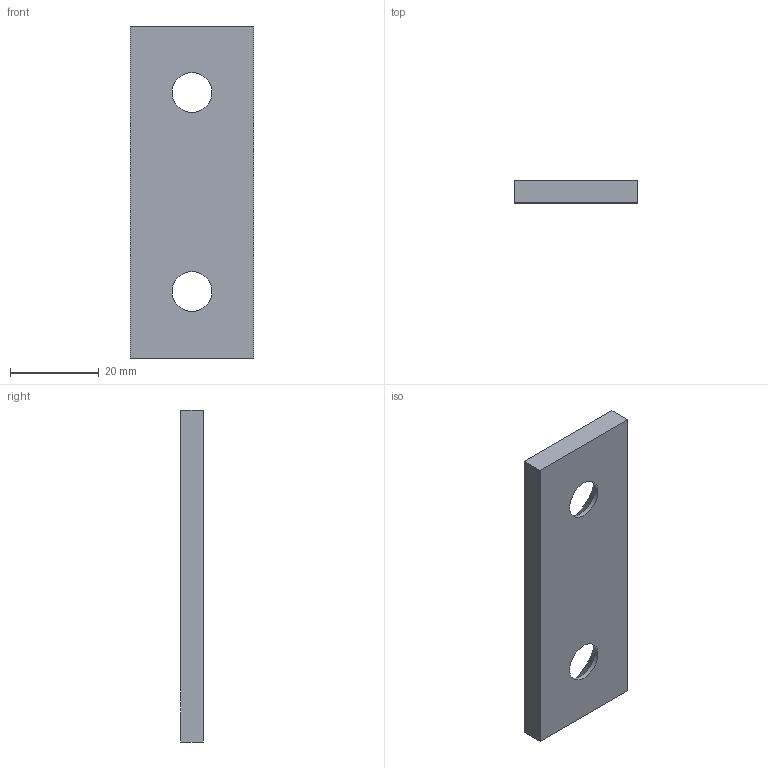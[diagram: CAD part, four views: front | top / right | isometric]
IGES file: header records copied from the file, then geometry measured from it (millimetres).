
Start section: Data from Parasolid IGES Translator 20.0.26, Copyright(c) 2006 Siemens P LM Software. All Rights Reserved.
Global section: file name: P605-01-028-075.igs; native system: By Siemens PLM Incorporated; preprocessor: XPlus GENERIC/IGES 20.0.26; author: Noname; organization: Noname; date: 20190705.145554; units: millimetre
Bounding box: 28 x 5 x 75 mm (x, y, z)
Surface area: 5167.4 mm2 (no closed solid volume)
Topology: 0 solids, 0 shells, 10 faces, 44 edges, 41 vertices
Faces by surface type: extrusion 6, revolution 4
